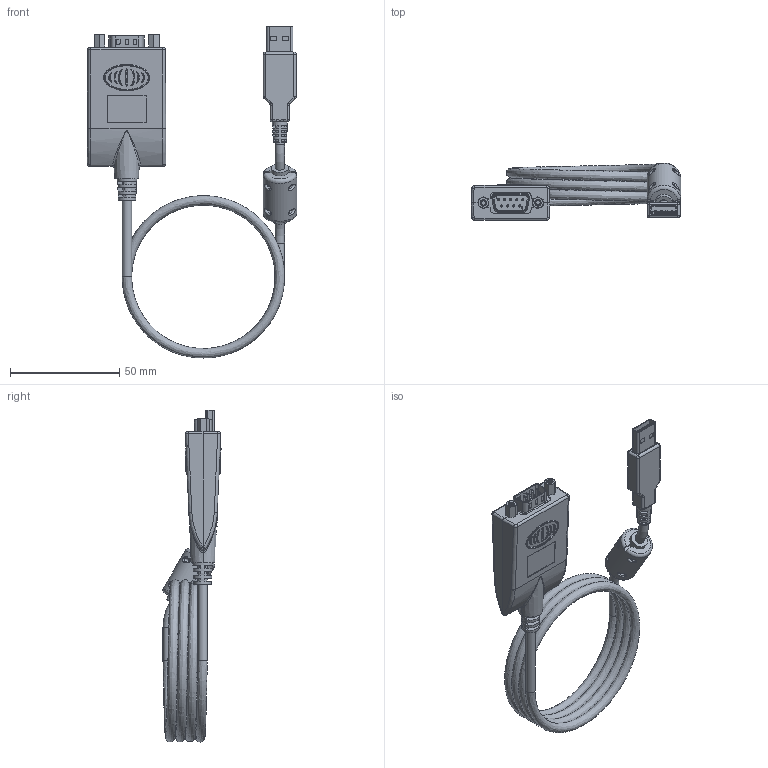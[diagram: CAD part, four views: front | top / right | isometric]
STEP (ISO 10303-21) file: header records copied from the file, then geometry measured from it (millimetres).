
FILE_DESCRIPTION(/* description */ (''),/* implementation_level */ '2;1');
FILE_NAME(/* name */ '/Users/leo/Desktop/Coolgear May/GM-FTDI-A36/GM-FTDI-A36 Model3D LPV1.step',/* time_stamp */ '2021-06-03T10:19:21-04:00',/* author */ (''),/* organization */ (''),/* preprocessor_version */ 'ST-DEVELOPER v18.1',/* originating_system */ 'Autodesk Translation Framework v10.9.0.1377',/* authorisation */ '');
FILE_SCHEMA (('AUTOMOTIVE_DESIGN { 1 0 10303 214 3 1 1 }'));
Products named in the file (1): FusionComponent
Bounding box: 95.83 x 26.61 x 152.04 mm (x, y, z)
Volume: 29789.8 mm3; surface area: 36201 mm2
Topology: 2 solids, 2 shells, 1276 faces, 3395 edges, 2168 vertices
Faces by surface type: plane 587, cylinder 350, bspline 177, cone 76, torus 54, sphere 32
Full cylindrical faces by diameter (mm): 0.635 x9, 0.991 x9, 1.524 x9, 2.02 x18, 2.845 x20, 3.048 x2, 4.3 x8, 5.563 x2, 8 x2, 10 x2, 10.4 x2, 15.4 x1
Entity records: 54781 total; most frequent: CARTESIAN_POINT 24351, ORIENTED_EDGE 6722, DIRECTION 5870, EDGE_CURVE 3361, VERTEX_POINT 2168, AXIS2_PLACEMENT_3D 2151, LINE 1568, VECTOR 1568
